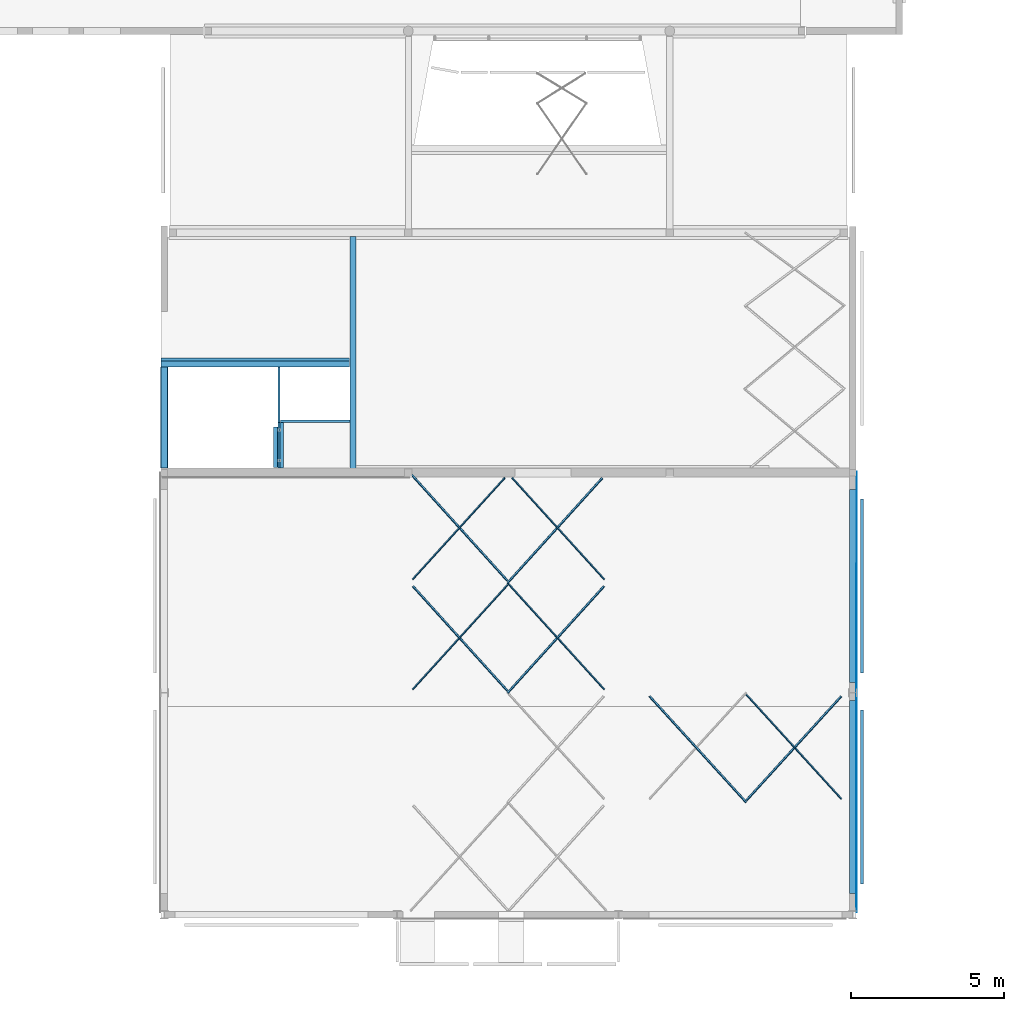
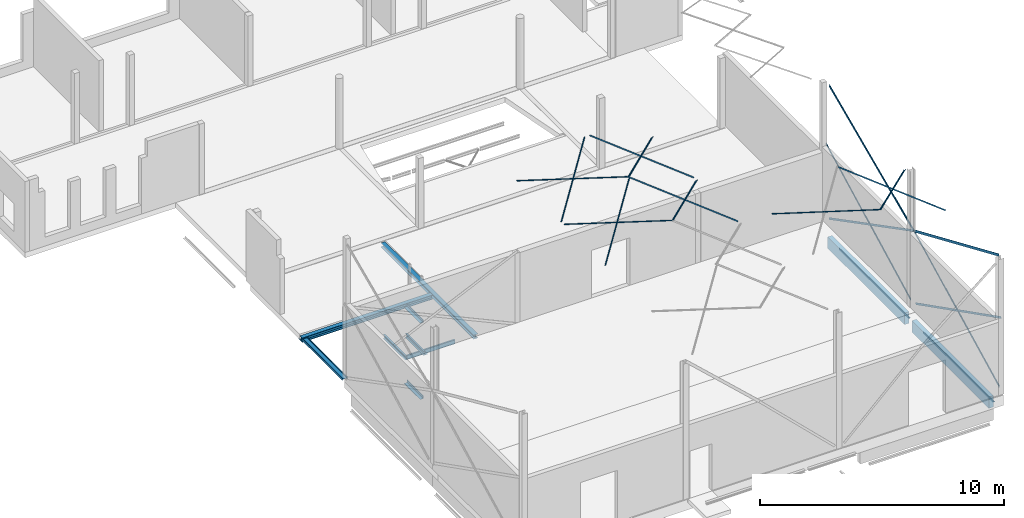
# One storey, part 6 of 14: 29 beams.
"""IFC2X3 building model written with IfcOpenShell, lengths in millimetres."""

import ifcopenshell
import ifcopenshell.guid

model = None  # the IFC model being written
_history = None  # IfcOwnerHistory: only IFC2X3 demands one
_inside = {}  # id of a spatial element -> (the spatial element, [elements in it])
_under = {}  # id of a project, library or spatial element -> (it, [spatial elements below it])
_declared = {}  # id of a project -> (the project, [libraries it declares])
_typed = {}  # id of a type object -> (the type object, [elements of that type])
_made_of = {}  # id of a material, layer set ... -> (it, [elements and type objects made of it])


def new_model(schema):
    """Start an empty IFC model of exactly this schema.

    Asked for "IFC4X3", IfcOpenShell would pick the latest addendum, in which some entities
    have other attributes; the version numbers below select the first issue.
    IFC2X3 requires an IfcOwnerHistory on every rooted entity: one is made here for all.
    """
    global model, _history
    if schema == "IFC4X3":
        model = ifcopenshell.file(schema_version=(4, 3, 0, 0))
    else:
        model = ifcopenshell.file(schema=schema)
    _inside.clear()
    _under.clear()
    _declared.clear()
    _typed.clear()
    _made_of.clear()
    _history = None
    if model.schema == "IFC2X3":
        org = make("IfcOrganization", Name="unknown")
        user = make(
            "IfcPersonAndOrganization",
            ThePerson=make("IfcPerson", FamilyName="unknown"),
            TheOrganization=org,
        )
        app = make(
            "IfcApplication",
            ApplicationDeveloper=org,
            Version="unknown",
            ApplicationFullName="unknown",
            ApplicationIdentifier="unknown",
        )
        _history = make(
            "IfcOwnerHistory",
            OwningUser=user,
            OwningApplication=app,
            ChangeAction="ADDED",
            CreationDate=0,
        )
    return model


def make(cls, **values):
    """One entity of the class cls with the attributes given. An attribute that is None is left unset."""
    return model.create_entity(
        cls, **{name: value for name, value in values.items() if value is not None}
    )


def entity(cls, *values):
    """Any entity or typed value of the class cls, its attributes in the order of the schema. None: left unset."""
    e = model.create_entity(cls)
    for i, value in enumerate(values):
        if value is not None:
            e[i] = value
    return e


def rooted(cls, **values):
    """An entity with a GlobalId (a new one), such as an element, a storey or a relation."""
    return make(cls, GlobalId=ifcopenshell.guid.new(), OwnerHistory=_history, **values)


def si_unit(unit_type, name, prefix=None):
    """IfcSIUnit, for example si_unit("LENGTHUNIT", "METRE", prefix="MILLI")."""
    return make("IfcSIUnit", UnitType=unit_type, Prefix=prefix, Name=name)


def converted_unit(unit_type, name, factor, base, dimensions=None, offset=None):
    """IfcConversionBasedUnit, such as the inch: factor (a typed value) times the base unit."""
    return make(
        "IfcConversionBasedUnit"
        if offset is None
        else "IfcConversionBasedUnitWithOffset",
        ConversionOffset=offset,
        Dimensions=None
        if dimensions is None
        else entity("IfcDimensionalExponents", *dimensions),
        UnitType=unit_type,
        Name=name,
        ConversionFactor=make(
            "IfcMeasureWithUnit", ValueComponent=factor, UnitComponent=base
        ),
    )


def derived_unit(unit_type, elements):
    """IfcDerivedUnit: a product of units, each with its exponent."""
    return make(
        "IfcDerivedUnit",
        Elements=[
            make("IfcDerivedUnitElement", Unit=unit, Exponent=power)
            for unit, power in elements
        ],
        UnitType=unit_type,
    )


def assignment(units):
    """IfcUnitAssignment: the units of a project."""
    return None if units is None else make("IfcUnitAssignment", Units=units)


def point(xyz):
    """IfcCartesianPoint."""
    return None if xyz is None else make("IfcCartesianPoint", Coordinates=xyz)


def direction(xyz):
    """IfcDirection."""
    return None if xyz is None else make("IfcDirection", DirectionRatios=xyz)


def frame(location, z_axis=None, x_axis=None):
    """IfcAxis2Placement3D, a coordinate frame: its origin and axes. An axis left out is left unset."""
    return make(
        "IfcAxis2Placement3D",
        Location=point(location),
        Axis=direction(z_axis),
        RefDirection=direction(x_axis),
    )


def frame_2d(location, x_axis=None):
    """IfcAxis2Placement2D, a coordinate frame in the plane: its origin and x axis."""
    return make(
        "IfcAxis2Placement2D", Location=point(location), RefDirection=direction(x_axis)
    )


def origin():
    """The frame at (0, 0, 0) with its axes left unset."""
    return frame((0.0, 0.0, 0.0))


def origin_2d_with_axis():
    """The frame at (0, 0) in the plane with the x axis (1, 0) written out."""
    return frame_2d((0.0, 0.0), x_axis=(1.0, 0.0))


def place(relative_to, where):
    """IfcLocalPlacement: puts the frame where relative to a parent placement (None: the world)."""
    return make(
        "IfcLocalPlacement", PlacementRelTo=relative_to, RelativePlacement=where
    )


def context(
    kind, dimensions, precision=None, world=None, true_north=None, identifier=None
):
    """IfcGeometricRepresentationContext, for example the 3D "Model" context."""
    return make(
        "IfcGeometricRepresentationContext",
        ContextIdentifier=identifier,
        ContextType=kind,
        CoordinateSpaceDimension=dimensions,
        Precision=precision,
        WorldCoordinateSystem=world,
        TrueNorth=true_north,
    )


def subcontext(parent, identifier, kind, view, scale=None):
    """IfcGeometricRepresentationSubContext, for example "Body" below "Model"."""
    return make(
        "IfcGeometricRepresentationSubContext",
        ContextIdentifier=identifier,
        ContextType=kind,
        ParentContext=parent,
        TargetScale=scale,
        TargetView=view,
    )


def project(units=None, contexts=None):
    """IfcProject with its units and contexts."""
    return rooted(
        "IfcProject",
        Name="project",
        RepresentationContexts=contexts,
        UnitsInContext=assignment(units),
    )


def spatial(cls, under=None, at=None, **own):
    """A site, building, storey or space (cls), placed at a placement, below another one or the project."""
    s = rooted(cls, ObjectPlacement=at, **own)
    if under is not None:
        _under.setdefault(under.id(), (under, []))[1].append(s)
    return s


def polyline(points):
    """IfcPolyline through the points."""
    return make("IfcPolyline", Points=[point(p) for p in points])


def profile(cls, at=None, kind="AREA", **sizes):
    """A parametric profile (cls). Its sizes go by their IFC names, for example OverallWidth=200.0."""
    return make(cls, ProfileType=kind, Position=at, **sizes)


def rectangle(**sizes):
    """IfcRectangleProfileDef."""
    return profile("IfcRectangleProfileDef", **sizes)


def i_section(**sizes):
    """IfcIShapeProfileDef."""
    return profile("IfcIShapeProfileDef", **sizes)


def outline(outer, holes=None, kind="AREA"):
    """IfcArbitraryClosedProfileDef: a profile drawn as a closed curve; with holes, ...WithVoids."""
    if holes is None:
        return make("IfcArbitraryClosedProfileDef", ProfileType=kind, OuterCurve=outer)
    return make(
        "IfcArbitraryProfileDefWithVoids",
        ProfileType=kind,
        OuterCurve=outer,
        InnerCurves=holes,
    )


def extrude(swept, where, along, depth):
    """IfcExtrudedAreaSolid: the profile swept, set in the frame where, extruded along a direction by depth."""
    return make(
        "IfcExtrudedAreaSolid",
        SweptArea=swept,
        Position=where,
        ExtrudedDirection=direction(along),
        Depth=depth,
    )


def shape(context_of_items, identifier, shape_type, items):
    """IfcShapeRepresentation: the items that make up one representation, for example the "Body"."""
    return make(
        "IfcShapeRepresentation",
        ContextOfItems=context_of_items,
        RepresentationIdentifier=identifier,
        RepresentationType=shape_type,
        Items=items,
    )


def source(mapping_origin, context_of_items, identifier, shape_type, items):
    """IfcRepresentationMap: a shape defined once, which mapped items show again and again."""
    return make(
        "IfcRepresentationMap",
        MappingOrigin=mapping_origin,
        MappedRepresentation=shape(context_of_items, identifier, shape_type, items),
    )


def transform(
    local_origin,
    x_axis=None,
    y_axis=None,
    z_axis=None,
    scale=None,
    scale2=None,
    scale3=None,
    uniform=True,
):
    """IfcCartesianTransformationOperator3D, or its non-uniform kind. x_axis, y_axis, z_axis: its Axis1, 2, 3."""
    if uniform:
        return make(
            "IfcCartesianTransformationOperator3D",
            Axis1=direction(x_axis),
            Axis2=direction(y_axis),
            LocalOrigin=point(local_origin),
            Scale=scale,
            Axis3=direction(z_axis),
        )
    return make(
        "IfcCartesianTransformationOperator3DnonUniform",
        Axis1=direction(x_axis),
        Axis2=direction(y_axis),
        LocalOrigin=point(local_origin),
        Scale=scale,
        Axis3=direction(z_axis),
        Scale2=scale2,
        Scale3=scale3,
    )


def mapped(mapping_source, mapping_target):
    """IfcMappedItem: shows the shape of a source again, moved by a transform."""
    return make(
        "IfcMappedItem", MappingSource=mapping_source, MappingTarget=mapping_target
    )


def material(Name=None, Category=None):
    """IfcMaterial."""
    return make("IfcMaterial", Name=Name, Category=Category)


def made_of(thing, what):
    """Note that an element or type object is made of a material, layer set ...; save() writes the relation."""
    if what is not None:
        _made_of.setdefault(what.id(), (what, []))[1].append(thing)
    return thing


def type_object(cls, material=None, **own):
    """A type object (cls), such as IfcWallType, which elements share."""
    return made_of(rooted(cls, **own), material)


def type_shapes(of_type, sources):
    """Give a type object the sources (RepresentationMaps) that its elements show as mapped items."""
    of_type.RepresentationMaps = sources


def element(
    cls,
    number,
    at=None,
    inside=None,
    cuts=None,
    type_object=None,
    material=None,
    context=None,
    identifier="Body",
    shape_type=None,
    held_by="IfcProductDefinitionShape",
    body=None,
    shapes=None,
    **own,
):
    """One element of the class cls, such as IfcWall. Its Tag is "e" and its number.

    at: its placement. inside: the storey or other place that contains it. cuts: it is an
    opening in that element (IfcRelVoidsElement). A single representation is given by context,
    identifier, shape_type and body (its items); several are given by shapes. held_by: the class
    of the entity that holds the representations. save() writes the other relations.
    """
    e = rooted(cls, Tag="e%d" % number, ObjectPlacement=at, **own)
    if body is not None:
        shapes = [shape(context, identifier, shape_type, body)]
    if shapes is not None:
        e.Representation = make(held_by, Representations=shapes)
    if inside is not None:
        _inside.setdefault(inside.id(), (inside, []))[1].append(e)
    if cuts is not None:
        rooted(
            "IfcRelVoidsElement", RelatingBuildingElement=cuts, RelatedOpeningElement=e
        )
    if type_object is not None:
        _typed.setdefault(type_object.id(), (type_object, []))[1].append(e)
    return made_of(e, material)


def aggregate(whole, parts):
    """IfcRelAggregates: a whole, such as a stair, and the parts it consists of."""
    return rooted("IfcRelAggregates", RelatingObject=whole, RelatedObjects=parts)


def save(model, path):
    """Write the relations noted so far, then the file.

    IfcRelAggregates (storeys below a building ...), IfcRelContainedInSpatialStructure (elements
    in a storey), IfcRelDefinesByType, IfcRelAssociatesMaterial and IfcRelDeclares: one each for
    every whole, place, type object, material and project.
    """
    for whole, parts in _under.values():
        aggregate(whole, parts)
    for where, things in _inside.values():
        rooted(
            "IfcRelContainedInSpatialStructure",
            RelatedElements=things,
            RelatingStructure=where,
        )
    for kind, things in _typed.values():
        rooted("IfcRelDefinesByType", RelatedObjects=things, RelatingType=kind)
    for what, things in _made_of.values():
        rooted("IfcRelAssociatesMaterial", RelatedObjects=things, RelatingMaterial=what)
    for by, libraries in _declared.values():
        rooted("IfcRelDeclares", RelatingContext=by, RelatedDefinitions=libraries)
    model.write(path)


model = new_model("IFC2X3")

# Units and contexts
model_context = context("Model", 3, precision=0.01, world=origin(), true_north=direction((6.123031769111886e-17, 1.0)))
body_context = subcontext(model_context, "Body", "Model", "MODEL_VIEW")
ifc_project = project(units=[si_unit("LENGTHUNIT", "METRE", prefix="MILLI"), si_unit("AREAUNIT", "SQUARE_METRE", prefix="MILLI"), si_unit("VOLUMEUNIT", "CUBIC_METRE"), converted_unit("PLANEANGLEUNIT", "DEGREE", entity("IfcPlaneAngleMeasure", 0.017453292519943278), si_unit("PLANEANGLEUNIT", "RADIAN"), dimensions=[0, 0, 0, 0, 0, 0, 0]), si_unit("MASSUNIT", "GRAM", prefix="KILO"), derived_unit("MASSDENSITYUNIT", [(si_unit("MASSUNIT", "GRAM", prefix="KILO"), 1), (si_unit("LENGTHUNIT", "METRE"), -3)]), derived_unit("IONCONCENTRATIONUNIT", [(si_unit("MASSUNIT", "GRAM", prefix="KILO"), 1), (si_unit("LENGTHUNIT", "METRE"), -3)]), derived_unit("MOMENTOFINERTIAUNIT", [(si_unit("LENGTHUNIT", "METRE"), 4)]), si_unit("TIMEUNIT", "SECOND"), si_unit("FREQUENCYUNIT", "HERTZ"), si_unit("THERMODYNAMICTEMPERATUREUNIT", "DEGREE_CELSIUS"), derived_unit("THERMALTRANSMITTANCEUNIT", [(si_unit("MASSUNIT", "GRAM", prefix="KILO"), 1), (si_unit("THERMODYNAMICTEMPERATUREUNIT", "KELVIN"), -1), (si_unit("TIMEUNIT", "SECOND"), -3)]), derived_unit("THERMALCONDUCTANCEUNIT", [(si_unit("MASSUNIT", "GRAM", prefix="KILO"), 1), (si_unit("THERMODYNAMICTEMPERATUREUNIT", "KELVIN"), -1), (si_unit("TIMEUNIT", "SECOND"), -3), (si_unit("LENGTHUNIT", "METRE"), 1)]), derived_unit("VOLUMETRICFLOWRATEUNIT", [(si_unit("LENGTHUNIT", "METRE", prefix="DECI"), 3), (si_unit("TIMEUNIT", "SECOND"), -1)]), derived_unit("MASSFLOWRATEUNIT", [(si_unit("MASSUNIT", "GRAM", prefix="KILO"), 1), (si_unit("TIMEUNIT", "SECOND"), -1)]), derived_unit("ROTATIONALFREQUENCYUNIT", [(si_unit("TIMEUNIT", "SECOND"), -1)]), si_unit("ELECTRICCURRENTUNIT", "AMPERE"), si_unit("ELECTRICVOLTAGEUNIT", "VOLT"), si_unit("POWERUNIT", "WATT"), si_unit("FORCEUNIT", "NEWTON", prefix="KILO"), si_unit("ILLUMINANCEUNIT", "LUX"), si_unit("LUMINOUSFLUXUNIT", "LUMEN"), si_unit("LUMINOUSINTENSITYUNIT", "CANDELA"), si_unit("ENERGYUNIT", "JOULE"), derived_unit("USERDEFINED", [(si_unit("MASSUNIT", "GRAM", prefix="KILO"), -1), (si_unit("LENGTHUNIT", "METRE"), -2), (si_unit("TIMEUNIT", "SECOND"), 3), (si_unit("LUMINOUSFLUXUNIT", "LUMEN"), 1)]), derived_unit("USERDEFINED", [(si_unit("MASSUNIT", "GRAM", prefix="KILO"), 1), (si_unit("TIMEUNIT", "SECOND"), -3), (si_unit("LENGTHUNIT", "METRE"), 3), (si_unit("ELECTRICCURRENTUNIT", "AMPERE"), -2)]), derived_unit("SOUNDPOWERUNIT", [(si_unit("MASSUNIT", "GRAM", prefix="KILO"), 1), (si_unit("TIMEUNIT", "SECOND"), -3), (si_unit("LENGTHUNIT", "METRE"), 2)]), derived_unit("SOUNDPRESSUREUNIT", [(si_unit("MASSUNIT", "GRAM", prefix="KILO"), 1), (si_unit("LENGTHUNIT", "METRE"), -1), (si_unit("TIMEUNIT", "SECOND"), -2)]), derived_unit("LINEARVELOCITYUNIT", [(si_unit("LENGTHUNIT", "METRE"), 1), (si_unit("TIMEUNIT", "SECOND"), -1)]), si_unit("PRESSUREUNIT", "PASCAL"), derived_unit("USERDEFINED", [(si_unit("MASSUNIT", "GRAM", prefix="KILO"), 1), (si_unit("LENGTHUNIT", "METRE"), -2), (si_unit("TIMEUNIT", "SECOND"), -2)]), derived_unit("LINEARFORCEUNIT", [(si_unit("MASSUNIT", "GRAM", prefix="KILO"), 1), (si_unit("TIMEUNIT", "SECOND"), -2)]), derived_unit("PLANARFORCEUNIT", [(si_unit("MASSUNIT", "GRAM", prefix="KILO"), 1), (si_unit("LENGTHUNIT", "METRE"), -1), (si_unit("TIMEUNIT", "SECOND"), -2)]), derived_unit("SPECIFICHEATCAPACITYUNIT", [(si_unit("THERMODYNAMICTEMPERATUREUNIT", "KELVIN"), -1), (si_unit("LENGTHUNIT", "METRE"), 2), (si_unit("TIMEUNIT", "SECOND"), -2)]), derived_unit("HEATFLUXDENSITYUNIT", [(si_unit("MASSUNIT", "GRAM", prefix="KILO"), 1), (si_unit("TIMEUNIT", "SECOND"), -3)]), derived_unit("HEATINGVALUEUNIT", [(si_unit("LENGTHUNIT", "METRE"), 2), (si_unit("TIMEUNIT", "SECOND"), -2)]), derived_unit("VAPORPERMEABILITYUNIT", [(si_unit("LENGTHUNIT", "METRE"), -1), (si_unit("TIMEUNIT", "SECOND"), 1)]), derived_unit("DYNAMICVISCOSITYUNIT", [(si_unit("MASSUNIT", "GRAM", prefix="KILO"), 1), (si_unit("TIMEUNIT", "SECOND"), -1), (si_unit("LENGTHUNIT", "METRE"), -1)]), derived_unit("THERMALEXPANSIONCOEFFICIENTUNIT", [(si_unit("THERMODYNAMICTEMPERATUREUNIT", "KELVIN"), -1)]), derived_unit("MODULUSOFELASTICITYUNIT", [(si_unit("MASSUNIT", "GRAM", prefix="KILO"), 1), (si_unit("LENGTHUNIT", "METRE"), -1), (si_unit("TIMEUNIT", "SECOND"), -2)]), derived_unit("ISOTHERMALMOISTURECAPACITYUNIT", [(si_unit("MASSUNIT", "GRAM", prefix="KILO"), -1), (si_unit("LENGTHUNIT", "METRE"), 3)]), derived_unit("MOISTUREDIFFUSIVITYUNIT", [(si_unit("TIMEUNIT", "SECOND"), -1), (si_unit("LENGTHUNIT", "METRE"), 2)]), derived_unit("MASSPERLENGTHUNIT", [(si_unit("MASSUNIT", "GRAM", prefix="KILO"), 1), (si_unit("LENGTHUNIT", "METRE"), -1)]), derived_unit("THERMALRESISTANCEUNIT", [(si_unit("MASSUNIT", "GRAM", prefix="KILO"), -1), (si_unit("TIMEUNIT", "SECOND"), 3), (si_unit("THERMODYNAMICTEMPERATUREUNIT", "KELVIN"), 1)]), derived_unit("ACCELERATIONUNIT", [(si_unit("LENGTHUNIT", "METRE"), 1), (si_unit("TIMEUNIT", "SECOND"), -2)]), derived_unit("ANGULARVELOCITYUNIT", [(si_unit("TIMEUNIT", "SECOND"), -1), (si_unit("PLANEANGLEUNIT", "RADIAN"), 1)]), derived_unit("LINEARSTIFFNESSUNIT", [(si_unit("MASSUNIT", "GRAM", prefix="KILO"), 1), (si_unit("TIMEUNIT", "SECOND"), -2)]), derived_unit("WARPINGCONSTANTUNIT", [(si_unit("LENGTHUNIT", "METRE"), 6)]), derived_unit("LINEARMOMENTUNIT", [(si_unit("MASSUNIT", "GRAM", prefix="KILO"), 1), (si_unit("LENGTHUNIT", "METRE"), 1), (si_unit("TIMEUNIT", "SECOND"), -2)]), derived_unit("TORQUEUNIT", [(si_unit("MASSUNIT", "GRAM", prefix="KILO"), 1), (si_unit("LENGTHUNIT", "METRE"), 2), (si_unit("TIMEUNIT", "SECOND"), -2)])], contexts=[model_context])

# Site, building, storey
site_placement = place(None, origin())
site = spatial("IfcSite", under=ifc_project, at=site_placement, Name="Default", CompositionType="ELEMENT")
building_placement = place(site_placement, origin())
building = spatial("IfcBuilding", under=site, at=building_placement, CompositionType="ELEMENT")
storey_placement = place(building_placement, frame((0.0, 0.0, 3730.0)))
storey = spatial("IfcBuildingStorey", under=building, at=storey_placement, Name="V1 1e verd. (bk ruwe vloer)", CompositionType="ELEMENT", Elevation=3729.9999999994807)

# Beams
ifc_material_1 = material(Name="Metal - Steel - S235 JRG2 (standaard)")
beam_type_1 = type_object("IfcBeamType", Name="btl_staal - Strip b x h:120x12 Vwvb", PredefinedType="NOTDEFINED")
beam_1_placement = place(storey_placement, frame((29361.985770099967, 17501.738165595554, 6967.953104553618), z_axis=(-0.00055833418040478, -0.4023988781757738, 0.9154642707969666), x_axis=(-0.0012702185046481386, -0.9154633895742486, -0.4023992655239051)))
element("IfcBeam", 1, at=beam_1_placement, inside=storey, type_object=beam_type_1, material=ifc_material_1, Name="btl_staal - Strip b x h:120x12 Vwvb", ObjectType="btl_staal - Strip b x h:120x12 Vwvb", context=body_context, shape_type="SweptSolid", body=[
    extrude(rectangle(XDim=120.00000000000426, YDim=12.00000000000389, at=origin_2d_with_axis()), frame((300.0, 5.0, 0.0), z_axis=(1.0, 0.0, 0.0), x_axis=(0.0, 0.0, -1.0)), (0.0, 0.0, 1.0), 7572.661249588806),
])
beam_2_placement = place(storey_placement, frame((29356.986142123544, 3047.603283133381, 6928.0), z_axis=(0.0, 0.3962878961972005, 0.9181263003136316), x_axis=(0.0, 0.9181263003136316, -0.3962878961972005)))
element("IfcBeam", 2, at=beam_2_placement, inside=storey, type_object=beam_type_1, material=ifc_material_1, Name="btl_staal - Strip b x h:120x12 Vwvb", ObjectType="btl_staal - Strip b x h:120x12 Vwvb", context=body_context, shape_type="SweptSolid", body=[
    extrude(rectangle(XDim=120.00000000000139, YDim=12.000000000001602, at=frame_2d((3.5207392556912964e-12, 2.1658230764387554e-12), x_axis=(1.0, 0.0))), frame((300.0, -5.0, 0.0), z_axis=(1.0, 0.0, 0.0), x_axis=(0.0, 0.0, -1.0)), (0.0, 0.0, 1.0), 7593.795556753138),
])
beam_type_2 = type_object("IfcBeamType", Name="btl_staal - Strip b x h:10x100 verticaal", PredefinedType="NOTDEFINED")
beam_3_placement = place(storey_placement, frame((29356.9857701, 10294.56496810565, 3800.0), z_axis=(0.0, -0.45222373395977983, 0.8919045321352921), x_axis=(0.0, -0.8919045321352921, -0.45222373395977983)))
element("IfcBeam", 3, at=beam_3_placement, inside=storey, type_object=beam_type_2, material=ifc_material_1, Name="btl_staal - Strip b x h:10x100 verticaal", ObjectType="btl_staal - Strip b x h:10x100 verticaal", context=body_context, shape_type="SweptSolid", body=[
    extrude(rectangle(XDim=100.00000000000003, YDim=10.000000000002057, at=frame_2d((4.902744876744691e-13, -2.1658230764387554e-12), x_axis=(1.0, 0.0))), frame((0.0, 5.0, 0.0), z_axis=(1.0, 0.0, 0.0), x_axis=(0.0, 0.0, -1.0)), (0.0, 0.0, 1.0), 7837.564934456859),
])
beam_4_placement = place(storey_placement, frame((29356.98577009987, 10295.490018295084, 3800.0), z_axis=(0.0, 0.4600512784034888, 0.887892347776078), x_axis=(0.0, 0.887892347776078, -0.4600512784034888)))
element("IfcBeam", 4, at=beam_4_placement, inside=storey, type_object=beam_type_2, material=ifc_material_1, Name="btl_staal - Strip b x h:10x100 verticaal", ObjectType="btl_staal - Strip b x h:10x100 verticaal", context=body_context, shape_type="SweptSolid", body=[
    extrude(rectangle(XDim=100.00000000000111, YDim=10.000000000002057, at=frame_2d((-4.831690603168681e-13, 0.0), x_axis=(1.0, 0.0))), frame((0.0, -5.0, 0.0), z_axis=(1.0, 0.0, 0.0), x_axis=(0.0, 0.0, -1.0)), (0.0, 0.0, 1.0), 7807.791837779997),
])
beam_5_placement = place(storey_placement, frame((29356.985770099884, 17493.72000785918, 3800.0), z_axis=(0.0, -0.4600512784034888, 0.887892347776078), x_axis=(0.0, -0.887892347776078, -0.4600512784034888)))
element("IfcBeam", 5, at=beam_5_placement, inside=storey, type_object=beam_type_2, material=ifc_material_1, Name="btl_staal - Strip b x h:10x100 verticaal", ObjectType="btl_staal - Strip b x h:10x100 verticaal", context=body_context, shape_type="SweptSolid", body=[
    extrude(rectangle(XDim=100.00000000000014, YDim=10.000000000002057, at=frame_2d((-9.627854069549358e-13, 2.1658230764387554e-12), x_axis=(1.0, 0.0))), frame((0.0, 5.0, 0.0), z_axis=(1.0, 0.0, 0.0), x_axis=(0.0, 0.0, -1.0)), (0.0, 0.0, 1.0), 7807.791837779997),
])
beam_6_placement = place(storey_placement, frame((29356.98577009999, 3144.6450580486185, 3800.0), z_axis=(0.0, 0.45222373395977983, 0.8919045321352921), x_axis=(0.0, 0.8919045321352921, -0.45222373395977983)))
element("IfcBeam", 6, at=beam_6_placement, inside=storey, type_object=beam_type_2, material=ifc_material_1, Name="btl_staal - Strip b x h:10x100 verticaal", ObjectType="btl_staal - Strip b x h:10x100 verticaal", context=body_context, shape_type="SweptSolid", body=[
    extrude(rectangle(XDim=100.00000000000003, YDim=10.000000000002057, at=frame_2d((7.283063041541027e-13, 0.0), x_axis=(1.0, 0.0))), frame((0.0, -5.0, 0.0), z_axis=(1.0, 0.0, 0.0), x_axis=(0.0, 0.0, -1.0)), (0.0, 0.0, 1.0), 7837.564934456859),
])
ifc_material_2 = material(Name="Beton, prefab")
beam_type_3 = type_object("IfcBeamType", Name="btl_prefab - RBeam:214x572", PredefinedType="NOTDEFINED")
beam_7_placement = place(storey_placement, frame((29231.986142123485, 9737.882858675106, -450.0), z_axis=(0.0, 0.0, 1.0), x_axis=(0.0, -1.0, 0.0)))
element("IfcBeam", 7, at=beam_7_placement, inside=storey, type_object=beam_type_3, material=ifc_material_2, Name="btl_prefab - RBeam:214x572", ObjectType="btl_prefab - RBeam:214x572", context=body_context, shape_type="SweptSolid", body=[
    extrude(rectangle(XDim=571.9999999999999, YDim=214.00000000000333, at=origin_2d_with_axis()), frame((-300.0, 0.0, -286.0), z_axis=(1.0, 0.0, 0.0), x_axis=(0.0, 0.0, -1.0)), (0.0, 0.0, 1.0), 6300.277845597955),
])
beam_8_placement = place(storey_placement, frame((29231.986142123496, 16638.62557072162, -450.0), z_axis=(0.0, 0.0, 1.0), x_axis=(0.0, -1.0, 0.0)))
element("IfcBeam", 8, at=beam_8_placement, inside=storey, type_object=beam_type_3, material=ifc_material_2, Name="btl_prefab - RBeam:214x572", ObjectType="btl_prefab - RBeam:214x572", context=body_context, shape_type="SweptSolid", body=[
    extrude(rectangle(XDim=571.9999999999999, YDim=214.00000000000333, at=origin_2d_with_axis()), frame((-300.0, 0.0, -286.0), z_axis=(1.0, 0.0, 0.0), x_axis=(0.0, 0.0, -1.0)), (0.0, 0.0, 1.0), 6300.277845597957),
])
beam_type_4 = type_object("IfcBeamType", Name="btl_staal - Hoeklijn 2.0:L150x150x12", PredefinedType="NOTDEFINED")
beam_9_placement = place(storey_placement, frame((10411.578924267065, 17494.60501307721, -2280.000976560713), z_axis=(0.0, 0.0, 1.0), x_axis=(0.0, 1.0, 0.0)))
element("IfcBeam", 9, at=beam_9_placement, inside=storey, type_object=beam_type_4, material=ifc_material_1, Name="btl_staal - Hoeklijn 2.0:L150x150x12", ObjectType="btl_staal - Hoeklijn 2.0:L150x150x12", context=body_context, shape_type="SweptSolid", body=[
    extrude(outline(polyline([(-96.0, -54.0), (54.0, -54.0), (54.0, 96.0), (42.0, 96.0), (42.0, -42.0), (-96.0, -42.0), (-96.0, -54.0)])), frame((162.700000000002, 30.640000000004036, -96.0), z_axis=(1.0, 0.0, 0.0), x_axis=(0.0, 0.0, -1.0)), (0.0, 0.0, 1.0), 1323.4778183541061),
])
beam_10_placement = place(storey_placement, frame((10411.578924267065, 17669.605013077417, 1520.0), z_axis=(0.0, 0.0, 1.0), x_axis=(0.0, 1.0, 0.0)))
element("IfcBeam", 10, at=beam_10_placement, inside=storey, type_object=beam_type_4, material=ifc_material_1, Name="btl_staal - Hoeklijn 2.0:L150x150x12", ObjectType="btl_staal - Hoeklijn 2.0:L150x150x12", context=body_context, shape_type="SweptSolid", body=[
    extrude(outline(polyline([(-96.0, -54.0), (54.0, -54.0), (54.0, 96.0), (42.0, 96.0), (42.0, -42.0), (-96.0, -42.0), (-96.0, -54.0)])), frame((0.0, 30.640000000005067, -96.0), z_axis=(1.0, 0.0, 0.0), x_axis=(0.0, 0.0, -1.0)), (0.0, 0.0, 1.0), 1311.1778183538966),
])
beam_type_5 = type_object("IfcBeamType", Name="btl_staal - HE(a-b-m):HEB200", PredefinedType="NOTDEFINED")
beam_11_placement = place(storey_placement, frame((12886.325742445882, 25220.60501307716, -60.0), z_axis=(0.0, 0.0, 1.0), x_axis=(0.0, -1.0, 0.0)))
element("IfcBeam", 11, at=beam_11_placement, inside=storey, type_object=beam_type_5, material=ifc_material_1, Name="btl_staal - HE(a-b-m):HEB200", ObjectType="btl_staal - HE(a-b-m):HEB200", context=body_context, shape_type="SweptSolid", body=[
    extrude(i_section(OverallWidth=200.0, OverallDepth=200.0, WebThickness=9.00000000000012, FlangeThickness=14.999999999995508, at=frame_2d((1.0871303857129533e-12, -1.0871303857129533e-12), x_axis=(0.0, 1.0))), frame((0.0, 0.0, -100.0), z_axis=(1.0, 0.0, 0.0), x_axis=(0.0, 0.0, -1.0)), (0.0, 0.0, 1.0), 7604.750000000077),
])
beam_type_6 = type_object("IfcBeamType", Name="btl_staal - UNP:UNP200", PredefinedType="NOTDEFINED")
beam_12_placement = place(storey_placement, frame((10489.83892426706, 20945.667569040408, -1211.0), z_axis=(0.0, 0.0, 1.0), x_axis=(0.0, -1.0, 0.0)))
element("IfcBeam", 12, at=beam_12_placement, inside=storey, type_object=beam_type_6, material=ifc_material_1, Name="btl_staal - UNP:UNP200", ObjectType="btl_staal - UNP:UNP200", context=body_context, shape_type="SweptSolid", body=[
    extrude(outline(polyline([(-100.0, -35.375000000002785), (-88.50000000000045, -35.375000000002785), (-77.96743471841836, 31.124999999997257), (77.96743471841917, 31.124999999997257), (88.49999999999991, -35.37499999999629), (100.0, -35.375000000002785), (100.0, 39.62499999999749), (-100.0, 39.62499999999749), (-100.0, -35.375000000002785)])), frame((0.0, -19.524999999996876, -100.0), z_axis=(1.0, 0.0, 0.0), x_axis=(0.0, 0.0, -1.0)), (0.0, 0.0, 1.0), 1805.9177746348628),
])
beam_13_placement = place(storey_placement, frame((10509.938924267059, 19159.84979440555, -1211.0)))
element("IfcBeam", 13, at=beam_13_placement, inside=storey, type_object=beam_type_6, material=ifc_material_1, Name="btl_staal - UNP:UNP200", ObjectType="btl_staal - UNP:UNP200", context=body_context, shape_type="SweptSolid", body=[
    extrude(outline(polyline([(-100.0, -39.625000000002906), (100.0, -39.625000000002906), (100.0, 35.37499999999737), (88.4999999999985, 35.3749999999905), (77.96743471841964, -31.125000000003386), (-77.9674347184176, -31.125000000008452), (-88.50000000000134, 35.374999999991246), (-100.0, 35.37499999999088), (-100.0, -39.625000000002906)])), frame((12.70000060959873, 19.52500000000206, -100.0), z_axis=(1.0, 0.0, 0.0), x_axis=(0.0, 0.0, -1.0)), (0.0, 0.0, 1.0), 2263.6868175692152),
])
beam_type_7 = type_object("IfcBeamType", Name="btl_staal - UNP met onderstrip:UNP200+strip 190x10", PredefinedType="BEAM", material=ifc_material_1)
shared_shape_1 = source(origin(), body_context, "Body", "SweptSolid", [
    extrude(rectangle(XDim=9.999999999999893, YDim=190.0000000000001, at=frame_2d((0.0, 2.7045032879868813e-13), x_axis=(0.0, 1.0))), frame((10529.938924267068, 19139.74979440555, 3465.0), z_axis=(0.0, -1.0, 0.0), x_axis=(-1.0, 0.0, 0.0)), (0.0, 0.0, 1.0), 1495.1447813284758),
    extrude(outline(polyline([(-39.62499999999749, -100.0), (35.375000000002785, -100.0), (35.375000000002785, -88.500000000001), (-31.124999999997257, -77.9674347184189), (-31.124999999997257, 77.96743471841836), (35.37499999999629, 88.49999999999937), (35.375000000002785, 100.0), (-39.62499999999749, 100.0), (-39.62499999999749, -100.0)])), frame((10470.31392426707, 19139.749794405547, 3570.0), z_axis=(0.0, -1.0, 0.0), x_axis=(-1.0, 0.0, 0.0)), (0.0, 0.0, 1.0), 1495.1447813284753),
])
type_shapes(beam_type_7, [shared_shape_1])
beam_14_placement = place(storey_placement, frame((0.0, 0.0, -3730.0)))
element("IfcBeam", 14, at=beam_14_placement, inside=storey, type_object=beam_type_7, material=ifc_material_1, Name="btl_staal - UNP met onderstrip:UNP200+strip 190x10", ObjectType="btl_staal - UNP met onderstrip:UNP200+strip 190x10", context=body_context, shape_type="MappedRepresentation", body=[
    mapped(shared_shape_1, transform((0.0, 0.0, 0.0), scale=1.0)),
])
ifc_material_3 = material(Name="Metal - Steel - S355 JR (standaard-geintegreerde liggers)")
beam_type_8 = type_object("IfcBeamType", Name="btl_staal - SFB:SFB HEB200+300x15", PredefinedType="BEAM", material=ifc_material_3)
shared_shape_2 = source(origin(), body_context, "Body", "SweptSolid", [
    extrude(i_section(OverallWidth=200.00000000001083, OverallDepth=199.99999999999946, WebThickness=8.999999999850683, FlangeThickness=14.999999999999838, at=frame_2d((-2.7000623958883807e-13, 2.1671553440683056e-12), x_axis=(0.0, 1.0))), frame((6611.000781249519, 21045.66756904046, 3570.0), z_axis=(1.0, 0.0, 0.0), x_axis=(0.0, 0.0, -1.0)), (0.0, 0.0, 1.0), 6162.624961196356),
    extrude(rectangle(XDim=14.999999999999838, YDim=300.00000000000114, at=frame_2d((0.0, 8.668621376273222e-12), x_axis=(1.0, 0.0))), frame((6611.0007812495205, 21095.667569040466, 3462.5000000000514), z_axis=(1.0, 0.0, 0.0), x_axis=(0.0, 0.0, -1.0)), (0.0, 0.0, 1.0), 6162.624961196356),
])
type_shapes(beam_type_8, [shared_shape_2])
beam_15_placement = place(storey_placement, frame((0.0, 0.0, -3730.0)))
element("IfcBeam", 15, at=beam_15_placement, inside=storey, type_object=beam_type_8, material=ifc_material_3, Name="btl_staal - SFB:SFB HEB200+300x15", ObjectType="btl_staal - SFB:SFB HEB200+300x15", context=body_context, shape_type="MappedRepresentation", body=[
    mapped(shared_shape_2, transform((0.0, 0.0, 0.0), scale=1.0)),
])
beam_type_9 = type_object("IfcBeamType", Name="btl_staal - Hoeklijn 2.0:L 60X60X8", PredefinedType="NOTDEFINED")
beam_16_placement = place(storey_placement, frame((14744.122080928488, 13882.105013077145, 7100.633449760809), z_axis=(-0.1670447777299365, 0.18482500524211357, 0.9684708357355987), x_axis=(0.6493797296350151, -0.7184996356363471, 0.24912695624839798)))
element("IfcBeam", 16, at=beam_16_placement, inside=storey, type_object=beam_type_9, material=ifc_material_1, Name="btl_staal - Hoeklijn 2.0:L 60X60X8", ObjectType="btl_staal - Hoeklijn 2.0:L 60X60X8", context=body_context, shape_type="SweptSolid", body=[
    extrude(outline(polyline([(-37.33333333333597, -14.66666666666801), (-37.33333333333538, -22.666666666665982), (22.66666666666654, -22.666666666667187), (22.666666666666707, 37.33333333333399), (14.666666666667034, 37.3333333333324), (14.666666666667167, -14.666666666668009), (-37.33333333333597, -14.66666666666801)])), frame((137.4096786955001, 4.567050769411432, -37.46677643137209), z_axis=(-1.0, 0.0, 0.0), x_axis=(0.0, -0.9640464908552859, -0.26573363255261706)), (0.0, 0.0, -1.0), 4759.273768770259),
])
beam_17_placement = place(storey_placement, frame((14734.988090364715, 10307.105013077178, 7097.129300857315), z_axis=(-0.16785221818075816, -0.18487892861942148, 0.9683209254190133), x_axis=(0.6508969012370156, 0.7169230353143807, 0.24970900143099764)))
element("IfcBeam", 17, at=beam_17_placement, inside=storey, type_object=beam_type_9, material=ifc_material_1, Name="btl_staal - Hoeklijn 2.0:L 60X60X8", ObjectType="btl_staal - Hoeklijn 2.0:L 60X60X8", context=body_context, shape_type="SweptSolid", body=[
    extrude(outline(polyline([(-37.33333333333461, -14.66666666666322), (-37.333333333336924, -22.66666666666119), (22.666666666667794, -22.66666666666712), (22.66666666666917, 37.33333333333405), (14.666666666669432, 37.33333333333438), (14.66666666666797, -14.666666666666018), (-37.33333333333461, -14.66666666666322)])), frame((134.29413808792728, -15.254986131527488, -34.523943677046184), z_axis=(-1.0, 0.0, 0.0), x_axis=(0.0, -0.964195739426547, 0.2651915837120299)), (0.0, 0.0, -1.0), 4768.711816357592),
])
beam_18_placement = place(storey_placement, frame((21205.85020331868, 13882.105013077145, 7100.633449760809), z_axis=(0.1670447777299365, 0.18482500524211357, 0.9684708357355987), x_axis=(-0.6493797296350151, -0.7184996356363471, 0.24912695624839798)))
element("IfcBeam", 18, at=beam_18_placement, inside=storey, type_object=beam_type_9, material=ifc_material_1, Name="btl_staal - Hoeklijn 2.0:L 60X60X8", ObjectType="btl_staal - Hoeklijn 2.0:L 60X60X8", context=body_context, shape_type="SweptSolid", body=[
    extrude(outline(polyline([(-22.666666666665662, -22.6666666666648), (37.333333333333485, -22.6666666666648), (37.3333333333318, -14.66666666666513), (-14.666666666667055, -14.6666666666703), (-14.666666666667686, 37.33333333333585), (-22.66666666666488, 37.3333333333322), (-22.666666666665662, -22.6666666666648)])), frame((137.40967869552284, -4.567050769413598, -37.46677643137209), z_axis=(1.0, 0.0, 0.0), x_axis=(0.0, 0.26573363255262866, 0.9640464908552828)), (0.0, 0.0, 1.0), 4854.176328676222),
])
beam_19_placement = place(storey_placement, frame((21214.984193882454, 10307.105013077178, 7097.129300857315), z_axis=(0.16785221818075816, -0.18487892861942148, 0.9683209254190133), x_axis=(-0.6508969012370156, 0.7169230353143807, 0.24970900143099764)))
element("IfcBeam", 19, at=beam_19_placement, inside=storey, type_object=beam_type_9, material=ifc_material_1, Name="btl_staal - Hoeklijn 2.0:L 60X60X8", ObjectType="btl_staal - Hoeklijn 2.0:L 60X60X8", context=body_context, shape_type="SweptSolid", body=[
    extrude(outline(polyline([(-22.666666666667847, -22.66666666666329), (37.33333333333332, -22.66666666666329), (37.333333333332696, -14.666666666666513), (-14.666666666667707, -14.666666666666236), (-14.66666666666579, 37.333333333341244), (-22.66666666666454, 37.3333333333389), (-22.666666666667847, -22.66666666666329)])), frame((134.29413808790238, 15.254986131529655, -34.523943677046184), z_axis=(1.0, 0.0, 0.0), x_axis=(0.0, -0.2651915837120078, 0.964195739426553)), (0.0, 0.0, 1.0), 4863.585770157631),
])
beam_20_placement = place(storey_placement, frame((14744.122080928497, 17482.105013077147, 7100.633449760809), z_axis=(-0.1670447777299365, 0.18482500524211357, 0.9684708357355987), x_axis=(0.6493797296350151, -0.7184996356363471, 0.24912695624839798)))
element("IfcBeam", 20, at=beam_20_placement, inside=storey, type_object=beam_type_9, material=ifc_material_1, Name="btl_staal - Hoeklijn 2.0:L 60X60X8", ObjectType="btl_staal - Hoeklijn 2.0:L 60X60X8", context=body_context, shape_type="SweptSolid", body=[
    extrude(outline(polyline([(-37.33333333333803, -14.666666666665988), (-37.333333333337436, -22.666666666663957), (22.66666666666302, -22.66666666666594), (22.66666666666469, 37.33333333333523), (14.666666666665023, 37.33333333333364), (14.666666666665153, -14.66666666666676), (-37.33333333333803, -14.666666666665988)])), frame((0.0, 4.5670507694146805, -37.46677643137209), z_axis=(-1.0, 0.0, 0.0), x_axis=(0.0, -0.9640464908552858, -0.265733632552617)), (0.0, 0.0, -1.0), 4896.683447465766),
])
beam_21_placement = place(storey_placement, frame((14734.988090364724, 13907.105013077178, 7097.129300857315), z_axis=(-0.16785221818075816, -0.18487892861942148, 0.9683209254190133), x_axis=(0.6508969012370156, 0.7169230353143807, 0.24970900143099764)))
element("IfcBeam", 21, at=beam_21_placement, inside=storey, type_object=beam_type_9, material=ifc_material_1, Name="btl_staal - Hoeklijn 2.0:L 60X60X8", ObjectType="btl_staal - Hoeklijn 2.0:L 60X60X8", context=body_context, shape_type="SweptSolid", body=[
    extrude(outline(polyline([(-37.333333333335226, -14.666666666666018), (-37.33333333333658, -22.666666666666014), (22.66666666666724, -22.66666666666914), (22.66666666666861, 37.33333333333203), (14.666666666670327, 37.33333333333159), (14.666666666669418, -14.666666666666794), (-37.333333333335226, -14.666666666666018)])), frame((134.2941380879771, -15.254986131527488, -34.523943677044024), z_axis=(-1.0, 0.0, 0.0), x_axis=(0.0, -0.9641957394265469, 0.2651915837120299)), (0.0, 0.0, -1.0), 4632.196884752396),
])
beam_22_placement = place(storey_placement, frame((21217.147699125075, 17494.60501307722, 7096.299297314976), z_axis=(0.1670447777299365, 0.18482500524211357, 0.9684708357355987), x_axis=(-0.6493797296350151, -0.7184996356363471, 0.24912695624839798)))
element("IfcBeam", 22, at=beam_22_placement, inside=storey, type_object=beam_type_9, material=ifc_material_1, Name="btl_staal - Hoeklijn 2.0:L 60X60X8", ObjectType="btl_staal - Hoeklijn 2.0:L 60X60X8", context=body_context, shape_type="SweptSolid", body=[
    extrude(outline(polyline([(-22.66666666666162, -22.666666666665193), (37.333333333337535, -22.66666666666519), (37.333333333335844, -14.666666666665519), (-14.666666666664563, -14.666666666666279), (-14.66666666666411, 37.333333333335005), (-22.666666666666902, 37.33333333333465), (-22.66666666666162, -22.666666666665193)])), frame((237.08566224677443, -4.5670507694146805, -37.46677643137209), z_axis=(1.0, 0.0, 0.0), x_axis=(0.0, 0.26573363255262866, 0.9640464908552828)), (0.0, 0.0, 1.0), 4771.897709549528),
])
beam_23_placement = place(storey_placement, frame((21214.98419388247, 13907.105013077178, 7097.129300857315), z_axis=(0.16785221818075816, -0.18487892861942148, 0.9683209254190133), x_axis=(-0.6508969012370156, 0.7169230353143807, 0.24970900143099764)))
element("IfcBeam", 23, at=beam_23_placement, inside=storey, type_object=beam_type_9, material=ifc_material_1, Name="btl_staal - Hoeklijn 2.0:L 60X60X8", ObjectType="btl_staal - Hoeklijn 2.0:L 60X60X8", context=body_context, shape_type="SweptSolid", body=[
    extrude(outline(polyline([(-22.666666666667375, -22.666666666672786), (37.33333333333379, -22.666666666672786), (37.33333333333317, -14.6666666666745), (-14.666666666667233, -14.666666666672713), (-14.66666666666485, 37.333333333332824), (-22.666666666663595, 37.33333333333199), (-22.666666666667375, -22.666666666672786)])), frame((134.29413808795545, 15.254986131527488, -34.523943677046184), z_axis=(1.0, 0.0, 0.0), x_axis=(0.0, -0.2651915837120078, 0.964195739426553)), (0.0, 0.0, 1.0), 4632.196884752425),
])
beam_24_placement = place(storey_placement, frame((28975.429278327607, 6719.605013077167, 7092.773701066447), z_axis=(0.16848782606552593, -0.18491861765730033, 0.9682029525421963), x_axis=(-0.6520885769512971, 0.715679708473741, 0.25016603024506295)))
element("IfcBeam", 24, at=beam_24_placement, inside=storey, type_object=beam_type_9, material=ifc_material_1, Name="btl_staal - Hoeklijn 2.0:L 60X60X8", ObjectType="btl_staal - Hoeklijn 2.0:L 60X60X8", context=body_context, shape_type="SweptSolid", body=[
    extrude(outline(polyline([(-22.66666666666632, -22.666666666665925), (37.333333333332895, -22.66666666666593), (37.33333333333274, -14.666666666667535), (-14.66666666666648, -14.666666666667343), (-14.666666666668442, 37.333333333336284), (-22.666666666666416, 37.333333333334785), (-22.66666666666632, -22.666666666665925)])), frame((152.02161947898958, 15.239668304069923, -34.53070805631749), z_axis=(1.0, 0.0, 0.0), x_axis=(0.0, -0.2647637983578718, 0.9643132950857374)), (0.0, 0.0, 1.0), 4759.46490274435),
])
beam_25_placement = place(storey_placement, frame((28975.429278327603, 10294.60501307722, 7092.773701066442), z_axis=(0.16848782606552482, 0.18491861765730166, 0.9682029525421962), x_axis=(-0.6520885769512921, -0.7156797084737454, 0.2501660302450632)))
element("IfcBeam", 25, at=beam_25_placement, inside=storey, type_object=beam_type_9, material=ifc_material_1, Name="btl_staal - Hoeklijn 2.0:L 60X60X8", ObjectType="btl_staal - Hoeklijn 2.0:L 60X60X8", context=body_context, shape_type="SweptSolid", body=[
    extrude(outline(polyline([(-22.666666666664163, -22.666666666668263), (37.33333333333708, -22.666666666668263), (37.33333333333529, -14.666666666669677), (-14.66666666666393, -14.666666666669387), (-14.666666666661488, 37.333333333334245), (-22.666666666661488, 37.33333333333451), (-22.666666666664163, -22.666666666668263)])), frame((155.49580758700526, -4.529361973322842, -37.471351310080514), z_axis=(1.0, 0.0, 0.0), x_axis=(0.0, 0.2647637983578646, 0.9643132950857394)), (0.0, 0.0, 1.0), 4752.342783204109),
])
beam_26_placement = place(storey_placement, frame((22472.722693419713, 10294.60501307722, 7092.773701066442), z_axis=(-0.16848782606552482, 0.18491861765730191, 0.9682029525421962), x_axis=(0.6520885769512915, -0.7156797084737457, 0.25016603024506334)))
element("IfcBeam", 26, at=beam_26_placement, inside=storey, type_object=beam_type_9, material=ifc_material_1, Name="btl_staal - Hoeklijn 2.0:L 60X60X8", ObjectType="btl_staal - Hoeklijn 2.0:L 60X60X8", context=body_context, shape_type="SweptSolid", body=[
    extrude(outline(polyline([(-37.333333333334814, -14.666666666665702), (-37.3333333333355, -22.66666666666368), (22.666666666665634, -22.666666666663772), (22.666666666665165, 37.333333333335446), (14.666666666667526, 37.33333333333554), (14.666666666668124, -14.66666666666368), (-37.333333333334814, -14.666666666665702)])), frame((155.4958075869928, 4.529361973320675, -37.471351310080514), z_axis=(-1.0, 0.0, 0.0), x_axis=(0.0, -0.9643132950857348, -0.2647637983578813)), (0.0, 0.0, -1.0), 4847.1952239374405),
])
beam_type_10 = type_object("IfcBeamType", Name="btl_staal - IPE:IPE240", PredefinedType="NOTDEFINED")
beam_27_placement = place(storey_placement, frame((6838.000781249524, 20945.667569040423, -120.0), z_axis=(0.0, 0.0, 1.0), x_axis=(0.0, -1.0, 0.0)))
element("IfcBeam", 27, at=beam_27_placement, inside=storey, type_object=beam_type_10, material=ifc_material_1, Name="btl_staal - IPE:IPE240", ObjectType="btl_staal - IPE:IPE240", context=body_context, shape_type="SweptSolid", body=[
    extrude(i_section(OverallWidth=120.00000000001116, OverallDepth=239.9999999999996, WebThickness=6.200000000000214, FlangeThickness=9.799999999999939, at=frame_2d((-5.435651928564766e-13, 1.0871303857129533e-12), x_axis=(1.0, 0.0))), frame((0.0, -120.0, 0.0), z_axis=(1.0, 0.0, 0.0), x_axis=(0.0, 0.0, -1.0)), (0.0, 0.0, 1.0), 3301.0625559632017),
])
beam_type_11 = type_object("IfcBeamType", Name="btl_staal - Hoeklijn 2.0:L100x100x10", PredefinedType="NOTDEFINED")
beam_28_placement = place(storey_placement, frame((29511.704755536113, 9737.605013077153, -932.0), z_axis=(0.0, 0.0, 1.0), x_axis=(0.0, -1.0, 0.0)))
element("IfcBeam", 28, at=beam_28_placement, inside=storey, type_object=beam_type_11, material=ifc_material_1, Name="btl_staal - Hoeklijn 2.0:L100x100x10", ObjectType="btl_staal - Hoeklijn 2.0:L100x100x10", context=body_context, shape_type="SweptSolid", body=[
    extrude(outline(polyline([(-63.333333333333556, -36.666666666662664), (36.66666666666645, -36.666666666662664), (36.66666666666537, 63.33333333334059), (26.66666666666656, 63.33333333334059), (26.6666666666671, -26.666666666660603), (-63.333333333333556, -26.666666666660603), (-63.333333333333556, -36.666666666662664)])), frame((0.0, 8.44666666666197, -63.333333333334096), z_axis=(1.0, 0.0, 0.0), x_axis=(0.0, 0.0, -1.0)), (0.0, 0.0, 1.0), 5696.294444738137),
])
beam_29_placement = place(storey_placement, frame((29511.70475553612, 16638.374716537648, -932.0), z_axis=(0.0, 0.0, 1.0), x_axis=(0.0, -1.0, 0.0)))
element("IfcBeam", 29, at=beam_29_placement, inside=storey, type_object=beam_type_11, material=ifc_material_1, Name="btl_staal - Hoeklijn 2.0:L100x100x10", ObjectType="btl_staal - Hoeklijn 2.0:L100x100x10", context=body_context, shape_type="SweptSolid", body=[
    extrude(outline(polyline([(-63.333333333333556, -36.66666666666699), (36.66666666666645, -36.66666666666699), (36.66666666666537, 63.33333333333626), (26.66666666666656, 63.33333333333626), (26.6666666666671, -26.666666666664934), (-63.333333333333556, -26.666666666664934), (-63.333333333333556, -36.66666666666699)])), frame((0.0, 8.44666666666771, -63.333333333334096), z_axis=(1.0, 0.0, 0.0), x_axis=(0.0, 0.0, -1.0)), (0.0, 0.0, 1.0), 5696.294444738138),
])

save(model, "model.ifc")
